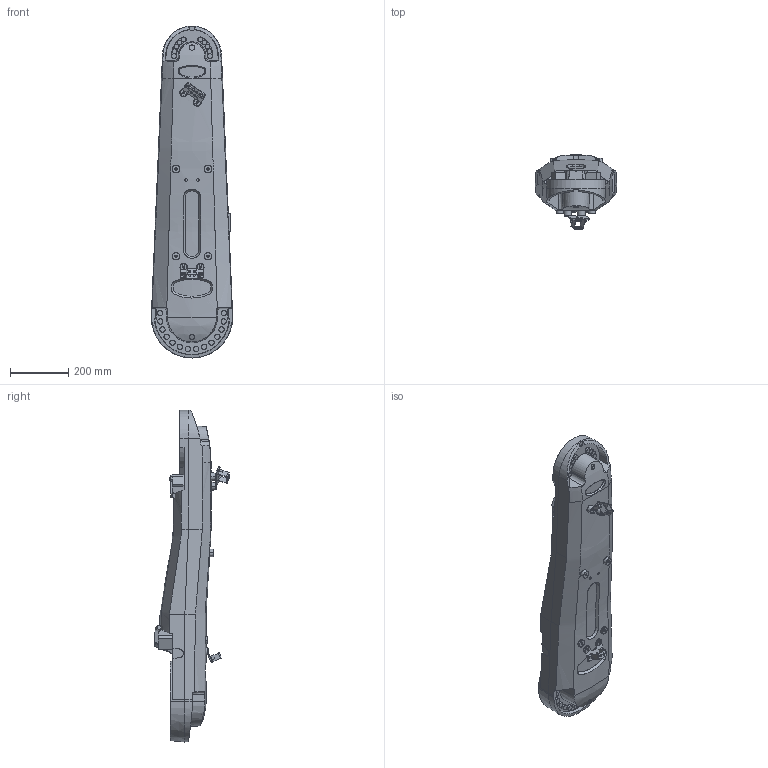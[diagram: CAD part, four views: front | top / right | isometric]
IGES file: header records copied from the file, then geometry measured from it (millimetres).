
Start section: SolidWorks IGES file using analytic representation for surfaces
Global section: file name: C:\Data\SAP_DOC\_2016-Q4_Lättmodeller RobCal\CAD Model_IRB4600_Rev04\IRB4600_45kg-205_IRC5_rev04\IRB4600_45kg-205_IRC5_rev04_IRC5_IGES_j\IRB4600_45kg-205_LINK2_CAD_rev04.IGS; native system: SolidWorks 2014; preprocessor: SolidWorks 2014; author: SEMAAXM; date: 161206.113148; units: millimetre
Bounding box: 280 x 256.21 x 1141.5 mm (x, y, z)
Surface area: 916094.8 mm2 (no closed solid volume)
Topology: 0 solids, 0 shells, 714 faces, 12634 edges, 12625 vertices
Faces by surface type: bspline 393, revolution 321
